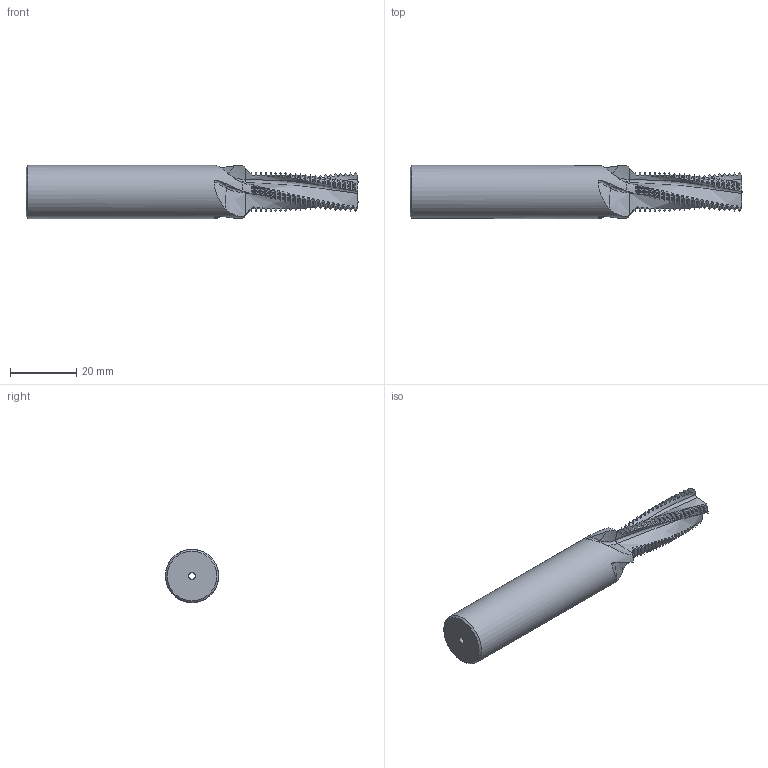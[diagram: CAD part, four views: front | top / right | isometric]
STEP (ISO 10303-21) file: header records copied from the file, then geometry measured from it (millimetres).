
FILE_DESCRIPTION(/* description */ (''),/* implementation_level */ '2;1');
FILE_NAME(/* name */ '00036388-STEP',/* time_stamp */ '2024-02-19T08:33:25+01:00',/* author */ (''),/* organization */ (''),/* preprocessor_version */ 'ST-DEVELOPER v16.5',/* originating_system */ 'HiCAD 2017 2201.0 Build 268',/* authorisation */ '');
FILE_SCHEMA (('AUTOMOTIVE_DESIGN { 1 0 10303 214 1 1 1 1 }'));
Products named in the file (2): Root; ROTATIONSTEIL_0
Assembly tree (1 placements, depth 2):
  Root
    ROTATIONSTEIL_0
Bounding box: 100 x 16 x 15.99 mm (x, y, z)
Topology: 1 solids, 1 shells, 565 faces, 1676 edges, 1113 vertices
Faces by surface type: cylinder 178, cone 177, torus 172, bspline 36, plane 2
Full cylindrical faces by diameter (mm): 2 x1, 16 x1
Entity records: 57454 total; most frequent: CARTESIAN_POINT 28653, PRESENTATION_STYLE_ASSIGNMENT 3339, COLOUR_RGB 3339, DRAUGHTING_PRE_DEFINED_CURVE_FONT 3338, CURVE_STYLE 3338, OVER_RIDING_STYLED_ITEM 3338, ORIENTED_EDGE 3338, DIRECTION 2128
